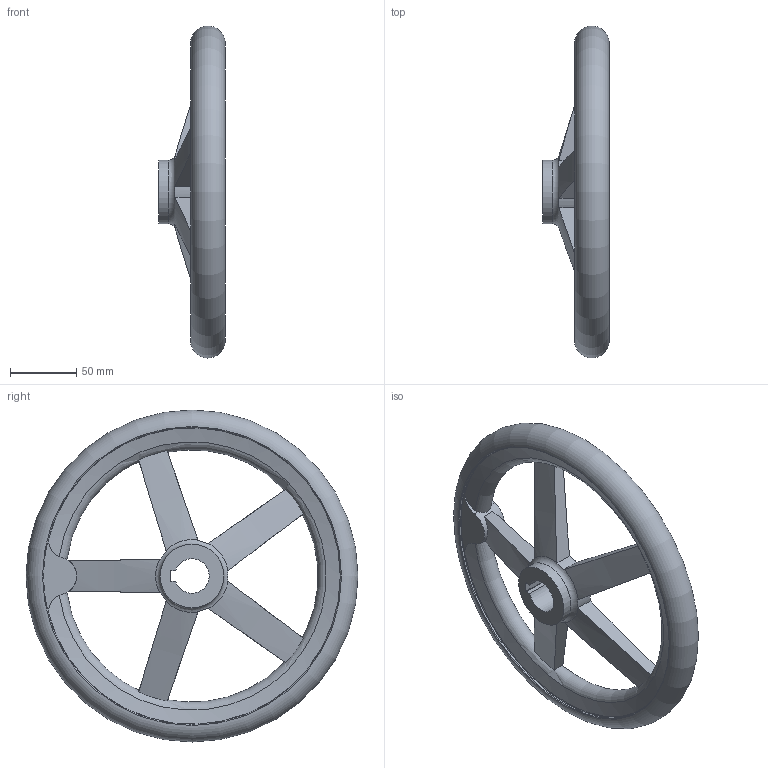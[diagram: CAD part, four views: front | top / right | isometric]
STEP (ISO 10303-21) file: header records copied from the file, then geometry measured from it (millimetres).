
FILE_DESCRIPTION( ( 'STEP AP203' ), '1' );
FILE_NAME( 'C:/Temp/Ganter_Step_05_03_2020/data/1_3/din_950/din_950_k/din_950_k_a/Handwheel DIN 950-GG-250-K26-A.stp', '2020-03-05T10:30:40', ( 'License CC BY-ND 4.0' ), ( 'CADENAS' ), ' ', 'PARTsolutions', ' ' );
FILE_SCHEMA( ( 'CONFIG_CONTROL_DESIGN' ) );
Length unit declared in the file: millimetre
Products named in the file (1): _Handwheel DIN 950-GG-250-K26-A
Bounding box: 50 x 249.99 x 249.99 mm (x, y, z)
Volume: 512101.6 mm3; surface area: 95032.2 mm2
Topology: 1 solids, 1 shells, 54 faces, 162 edges, 105 vertices
Faces by surface type: cylinder 17, plane 17, torus 12, cone 8
Full cylindrical faces by diameter (mm): 48 x2, 224 x2
Entity records: 2284 total; most frequent: CARTESIAN_POINT 905, ORIENTED_EDGE 292, DIRECTION 250, EDGE_CURVE 146, AXIS2_PLACEMENT_3D 111, VERTEX_POINT 102, EDGE_LOOP 73, FACE_OUTER_BOUND 65
